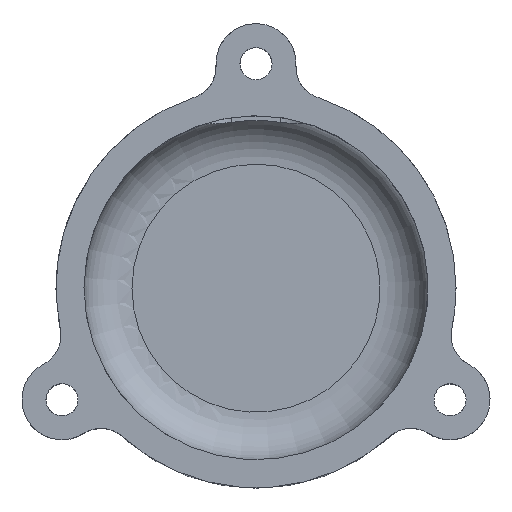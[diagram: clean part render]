
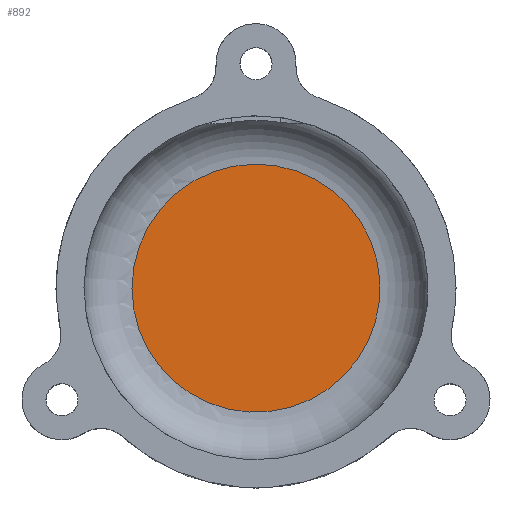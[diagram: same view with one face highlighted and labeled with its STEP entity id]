
A CAD part, top view. The second image highlights one B-rep face of the part: STEP entity #892.
In plain terms, the highlighted planar face has unit normal (0, 0, 1).
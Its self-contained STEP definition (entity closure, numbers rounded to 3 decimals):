
#69=CIRCLE('',#913,7.75);
#119=PLANE('',#977);
#190=VERTEX_POINT('',#1588);
#335=EDGE_CURVE('',#190,#190,#69,.T.);
#673=ORIENTED_EDGE('',*,*,#335,.F.);
#757=EDGE_LOOP('',(#673));
#830=FACE_BOUND('',#757,.T.);
#892=ADVANCED_FACE('',(#830),#119,.T.);
#913=AXIS2_PLACEMENT_3D('',#1587,#1023,#1024);
#977=AXIS2_PLACEMENT_3D('',#4864,#1158,$);
#1023=DIRECTION('',(0.,0.,-1.));
#1024=DIRECTION('',(7.75,0.,0.));
#1158=DIRECTION('',(0.,0.,1.));
#1587=CARTESIAN_POINT('',(0.,0.,1.75));
#1588=CARTESIAN_POINT('',(-7.75,0.,1.75));
#4864=CARTESIAN_POINT('',(0.,0.,1.75));
